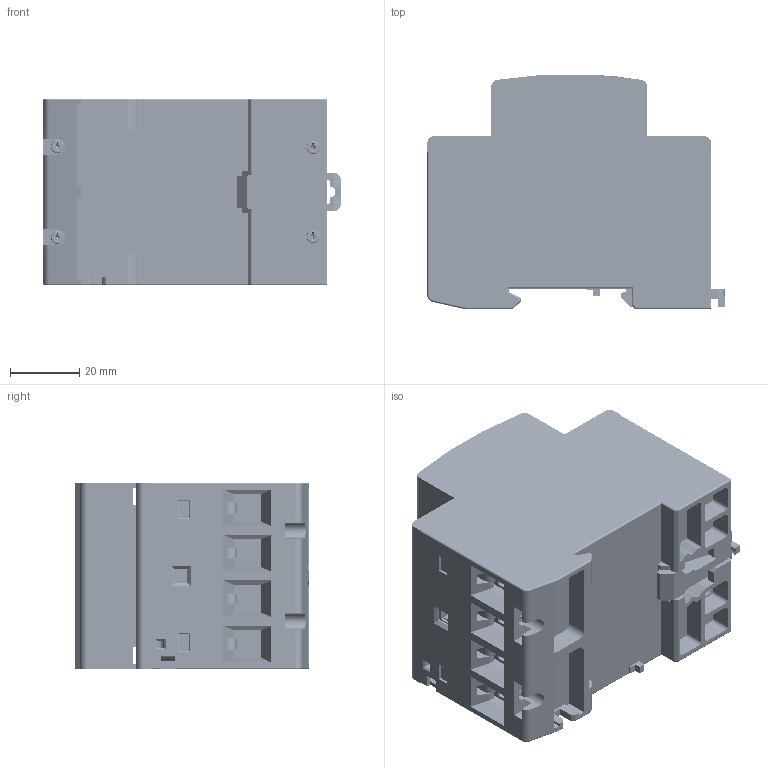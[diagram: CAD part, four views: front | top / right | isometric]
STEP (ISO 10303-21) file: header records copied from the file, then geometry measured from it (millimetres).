
FILE_DESCRIPTION (( 'STEP AP203' ), '1' );
FILE_NAME ('AUC6-63-3模.STEP', '2024-06-25T03:00:09', ( '微软用户' ), ( '微软中国' ), 'SwSTEP 2.0', 'SolidWorks 2023', '' );
FILE_SCHEMA (( 'CONFIG_CONTROL_DESIGN' ));
Length unit declared in the file: millimetre
Products named in the file (14): GAI-63A-1; A20180619AUB1卡扣模具更改; AUC6-63-3模; ALUO_DING_AUC6-63A_8-1; ALUO_DING-63A_3-1; TIE-XING-ZHI-JIA-63A-1; AJIE-XIAN-BAN-63A_1-1; AATOU-MIN-BAO-SHI-1; AAUC1-63-4接线框; A20190826AUC1-63-4底座改AUB1卡扣; A封口片; A接线板AA1; A螺丝头小; Ajxb_hyb1
Assembly tree (40 placements, depth 2):
  AUC6-63-3模
    A20190826AUC1-63-4底座改AUB1卡扣
    A20180619AUB1卡扣模具更改
    AAUC1-63-4接线框  x8
    A接线板AA1  x8
    ALUO_DING_AUC6-63A_8-1  x8
    ALUO_DING-63A_3-1  x4
    TIE-XING-ZHI-JIA-63A-1
    Ajxb_hyb1  x2
    AJIE-XIAN-BAN-63A_1-1  x2
    A螺丝头小  x2
    AATOU-MIN-BAO-SHI-1
    A封口片
    GAI-63A-1
Bounding box: 85.93 x 67.81 x 54 mm (x, y, z)
Volume: 161417.8 mm3; surface area: 94242.1 mm2
Topology: 41 solids, 41 shells, 4938 faces, 14006 edges, 9138 vertices
Faces by surface type: plane 2777, cylinder 1675, bspline 372, cone 90, sphere 18, torus 6
Entity records: 86575 total; most frequent: CARTESIAN_POINT 28897, ORIENTED_EDGE 12294, DIRECTION 10404, EDGE_CURVE 6147, VECTOR 4492, LINE 4492, VERTEX_POINT 3990, AXIS2_PLACEMENT_3D 2956
